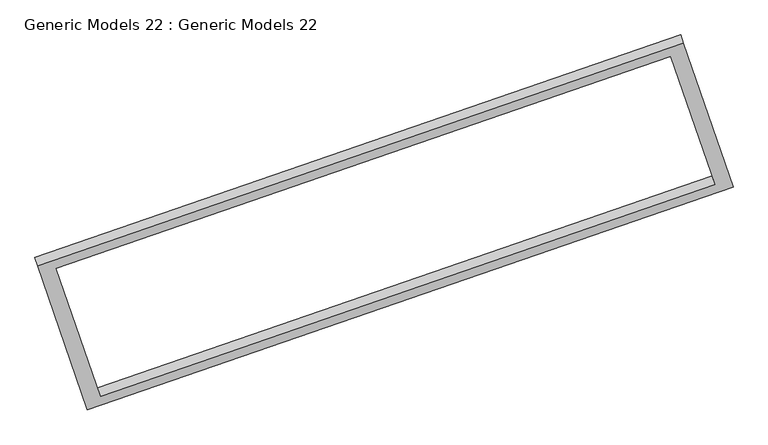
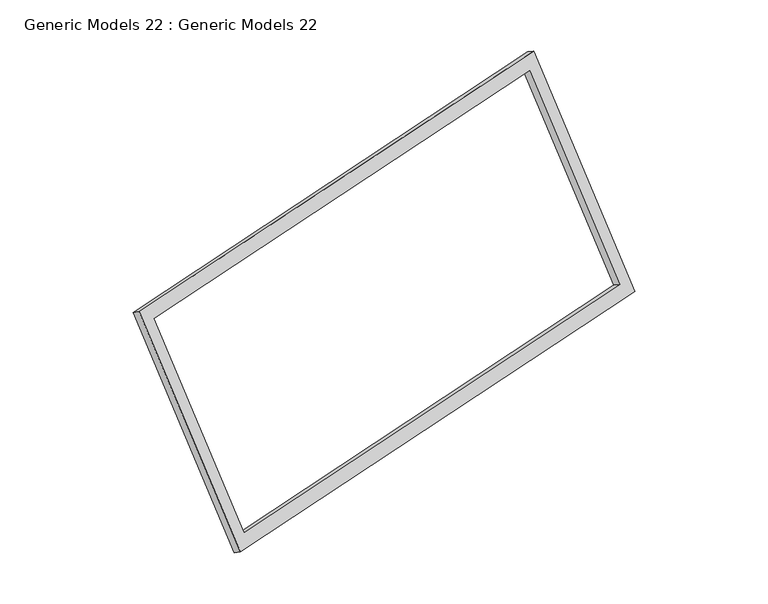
"""IFC4 building model written with IfcOpenShell, lengths in millimetres: proxy geometry, Generic Models 22 : Generic Models 22."""

from ifc_helpers import new_model, si_unit, frame, origin, place, context, project, spatial, polyline, outline, extrude, source, transform, mapped, element, save


def generic_models_22_generic_models_22_ceb32bb1(model_context):
    return source(origin(), model_context, "Body", "SweptSolid", [
        extrude(outline(polyline([(-12364.8102213, -1e-07), (-12364.8102213, -16386.8897792), (-19655.8601132, -16386.8897791), (-19655.8601131, 0.0), (-12364.8102213, -1e-07)]), holes=[polyline([(-12764.8102213, -15986.8897792), (-12764.8102213, -400.0000001), (-19255.8601131, -400.0000001), (-19255.8601131, -15986.8897792), (-12764.8102213, -15986.8897792)])]), frame((491885.5990112, 13382.2832317, 21072.4741912), z_axis=(0.28272652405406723, -0.8185754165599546, 0.5000000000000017), x_axis=(-0.16323223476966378, 0.47260473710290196, 0.8660254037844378)), (0.0, 0.0, 1.0), 250.0),
    ])


if __name__ == "__main__":
    model = new_model("IFC4")
    model_context = context("Model", 3, world=origin())
    ifc_project = project(units=[si_unit("LENGTHUNIT", "METRE", prefix="MILLI")], contexts=[model_context])
    site = spatial("IfcSite", under=ifc_project)
    building = spatial("IfcBuilding", under=site)
    placement = place(None, origin())
    generic_models_22_generic_models_22_shape = generic_models_22_generic_models_22_ceb32bb1(model_context)
    element("IfcBuildingElementProxy", 1, Name="Generic Models 22 : Generic Models 22", ObjectType="Generic Models 22 : Generic Models 22", at=placement, inside=building, context=model_context, shape_type="MappedRepresentation", body=[
        mapped(generic_models_22_generic_models_22_shape, transform((0.0, 0.0, 0.0), x_axis=(1.0, 0.0, 0.0), y_axis=(0.0, 1.0, 0.0), z_axis=(0.0, 0.0, 1.0))),
    ])
    save(model, "model.ifc")
